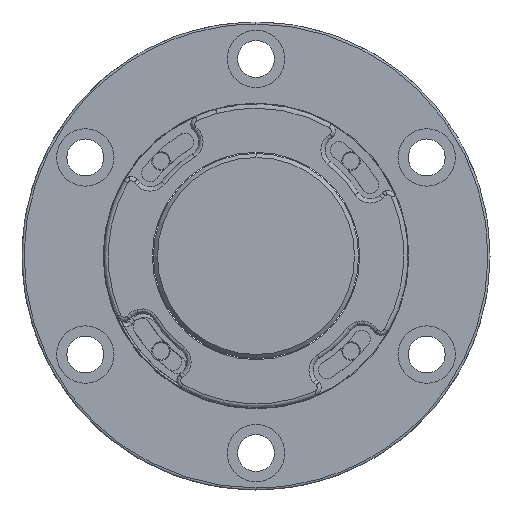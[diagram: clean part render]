
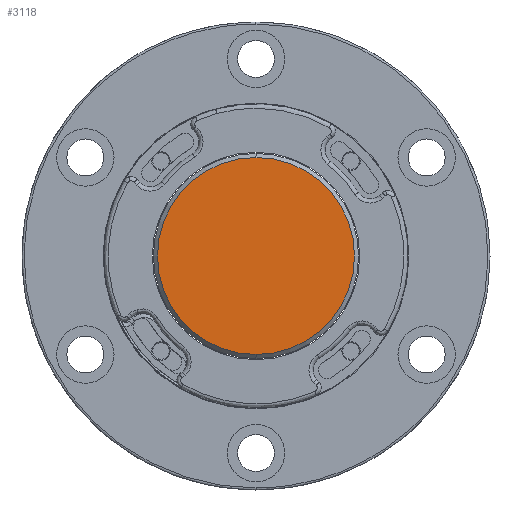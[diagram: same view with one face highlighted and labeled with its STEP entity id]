
A CAD part, left-side view. The second image highlights one B-rep face of the part: STEP entity #3118.
In plain terms, the highlighted planar face has unit normal (-1, 0, 0).
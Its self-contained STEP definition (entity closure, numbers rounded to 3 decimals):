
#760 = EDGE_LOOP ( 'NONE', ( #5330, #4541 ) ) ;
#826 = CARTESIAN_POINT ( 'NONE',  ( -10., 0., 24. ) ) ;
#2473 = DIRECTION ( 'NONE',  ( 0., 0., 1. ) ) ;
#2818 = PLANE ( 'NONE',  #6112 ) ;
#3118 = ADVANCED_FACE ( 'NONE', ( #12725 ), #2818, .T. ) ;
#3493 = CARTESIAN_POINT ( 'NONE',  ( -10., 0., 0. ) ) ;
#3736 = DIRECTION ( 'NONE',  ( 0., 0., 1. ) ) ;
#4541 = ORIENTED_EDGE ( 'NONE', *, *, #8080, .T. ) ;
#5330 = ORIENTED_EDGE ( 'NONE', *, *, #10351, .T. ) ;
#5943 = CARTESIAN_POINT ( 'NONE',  ( -10., 0., -24. ) ) ;
#5998 = DIRECTION ( 'NONE',  ( -1., 0., 0. ) ) ;
#6112 = AXIS2_PLACEMENT_3D ( 'NONE', #11707, #8795, #3736 ) ;
#7637 = AXIS2_PLACEMENT_3D ( 'NONE', #3493, #10360, #2473 ) ;
#8008 = CARTESIAN_POINT ( 'NONE',  ( -10., 0., 0. ) ) ;
#8080 = EDGE_CURVE ( 'NONE', #10764, #10416, #10281, .T. ) ;
#8795 = DIRECTION ( 'NONE',  ( -1., 0., 0. ) ) ;
#8956 = DIRECTION ( 'NONE',  ( 0., 0., 1. ) ) ;
#10213 = AXIS2_PLACEMENT_3D ( 'NONE', #8008, #5998, #8956 ) ;
#10281 = CIRCLE ( 'NONE', #7637, 24. ) ;
#10351 = EDGE_CURVE ( 'NONE', #10416, #10764, #12400, .T. ) ;
#10360 = DIRECTION ( 'NONE',  ( -1., 0., 0. ) ) ;
#10416 = VERTEX_POINT ( 'NONE', #5943 ) ;
#10764 = VERTEX_POINT ( 'NONE', #826 ) ;
#11707 = CARTESIAN_POINT ( 'NONE',  ( -10., 0., 0. ) ) ;
#12400 = CIRCLE ( 'NONE', #10213, 24. ) ;
#12725 = FACE_OUTER_BOUND ( 'NONE', #760, .T. ) ;
